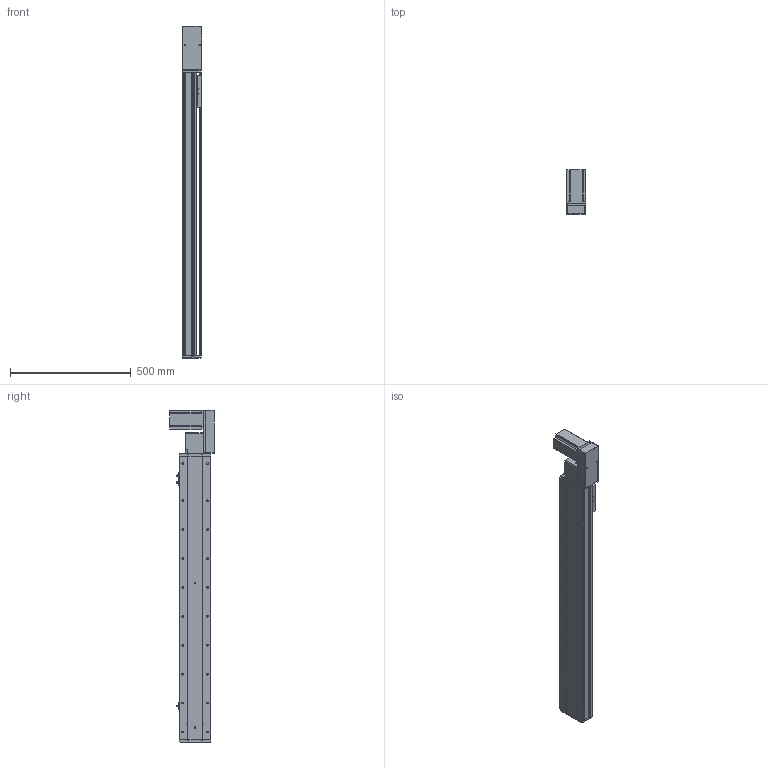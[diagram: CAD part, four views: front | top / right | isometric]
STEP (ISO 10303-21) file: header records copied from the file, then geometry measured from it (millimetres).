
FILE_DESCRIPTION (( 'STEP AP214' ), '1' );
FILE_NAME ('KSD130B-S950-MLB-CM.STEP', '2019-11-14T02:15:43', ( '微软用户' ), ( '微软中国' ), 'SwSTEP 2.0', 'SolidWorks 2014', '' );
FILE_SCHEMA (( 'AUTOMOTIVE_DESIGN' ));
Length unit declared in the file: millimetre
Products named in the file (12): 130宽模组保护罩上下左右折-同步带; 130宽模组马达安装板连板左右折同步带; 覜茼え100遵圉猾敕; U倰嫖萇EEㄜSX672; 130宽盖板半封闭同步带-950行程; 130宽马达安装板同步带左-改; 130宽马达安装板同步带半封闭; 130宽同步带安装座半封闭; 130宽端盖同步带半封闭; 130宽底板半封闭同步带-950行程; KSD130B-S950-MLB-CM; 台达ECMA－C20807AS伺服电机
Assembly tree (13 placements, depth 2):
  KSD130B-S950-MLB-CM
    130宽底板半封闭同步带-950行程
    130宽端盖同步带半封闭
    130宽同步带安装座半封闭
    130宽马达安装板同步带半封闭
    130宽马达安装板同步带左-改
    130宽盖板半封闭同步带-950行程
    U倰嫖萇EEㄜSX672  x3
    覜茼え100遵圉猾敕
    130宽模组马达安装板连板左右折同步带
    130宽模组保护罩上下左右折-同步带
    台达ECMA－C20807AS伺服电机
Bounding box: 82.5 x 184.8 x 1377 mm (x, y, z)
Volume: 4854173.2 mm3; surface area: 1320187.1 mm2
Topology: 14 solids, 14 shells, 1517 faces, 4321 edges, 2761 vertices
Faces by surface type: cylinder 724, plane 622, cone 171
Entity records: 49699 total; most frequent: CARTESIAN_POINT 9174, DIRECTION 7571, ORIENTED_EDGE 7286, EDGE_CURVE 3643, AXIS2_PLACEMENT_3D 2758, VERTEX_POINT 2385, VECTOR 2055, LINE 2055
